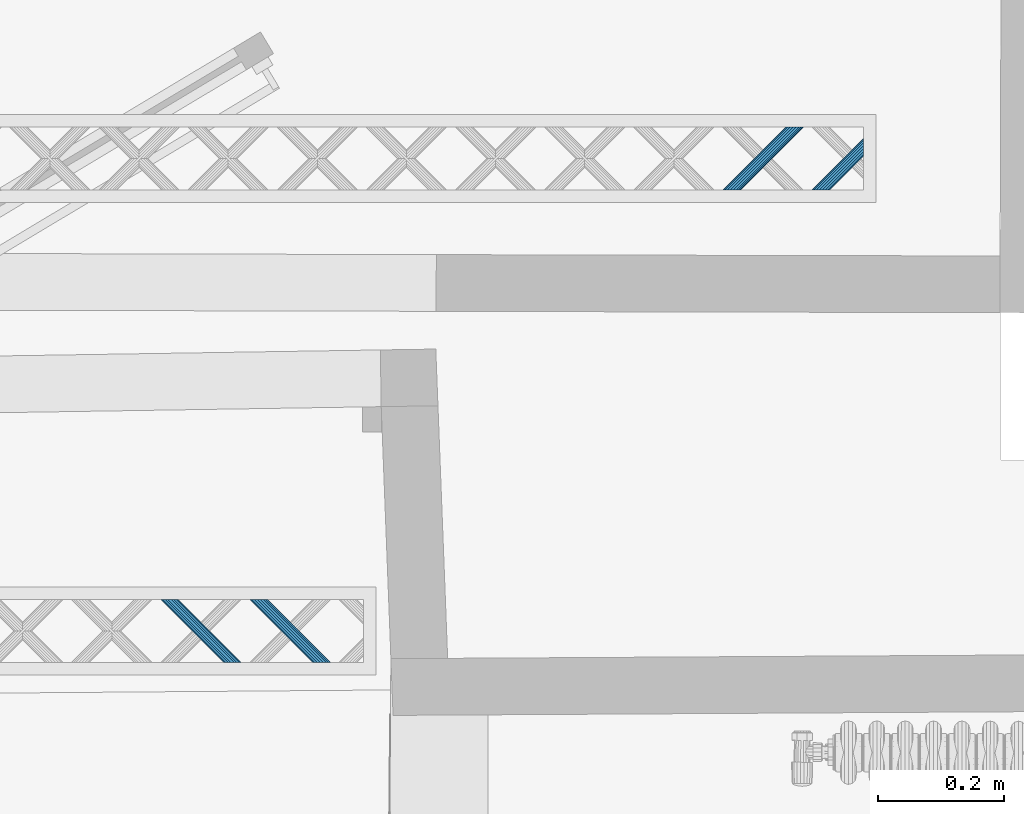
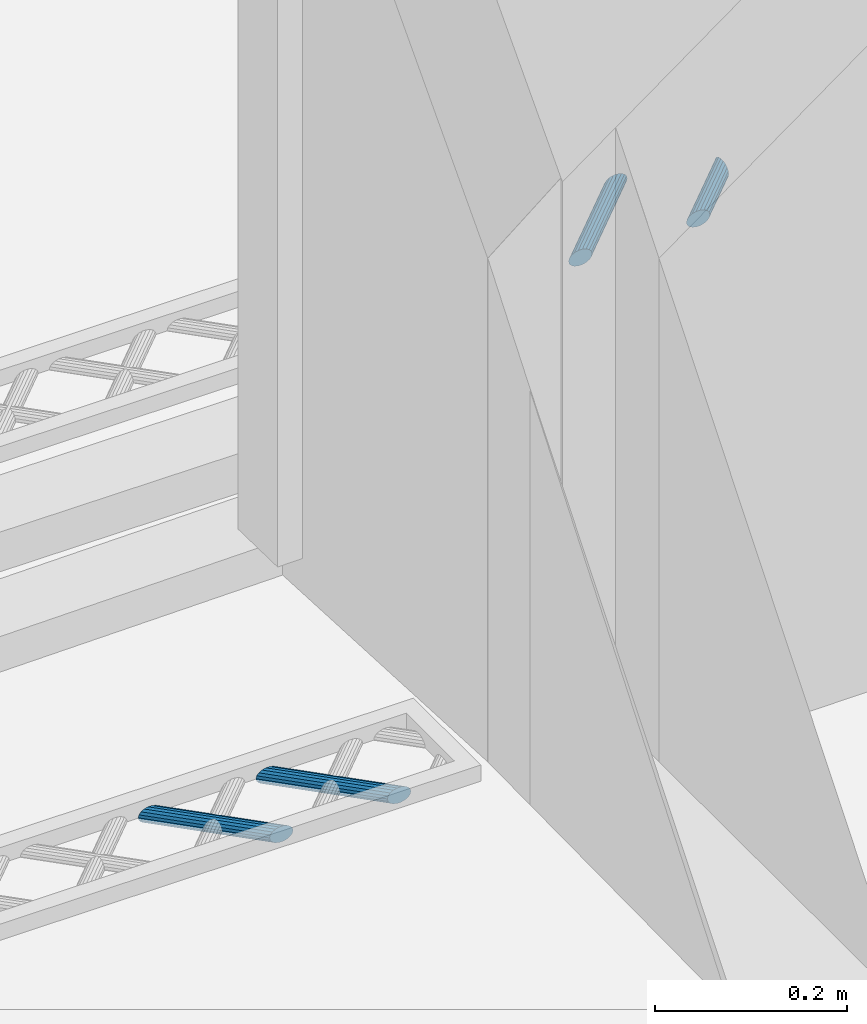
# One storey, part 71 of 133: 4 members, 2 elements without a shape of their own.
"""IFC2X3 building model written with IfcOpenShell, lengths in centimetres."""

from ifc_helpers import new_model, entity, si_unit, converted_unit, direction, frame, origin, origin_with_axes, place, context, subcontext, project, spatial, faceted_brep, material, type_object, element, aggregate, save


model = new_model("IFC2X3")

# Units and contexts
model_context = context("Model", 3, precision=0.0001, world=origin(), true_north=direction((0.225632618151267, 0.974212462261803, 0.0)))
body_context = subcontext(model_context, "Body", "Model", "MODEL_VIEW")
ifc_project = project(units=[si_unit("LENGTHUNIT", "METRE", prefix="CENTI"), si_unit("AREAUNIT", "SQUARE_METRE", prefix="CENTI"), si_unit("VOLUMEUNIT", "CUBIC_METRE", prefix="CENTI"), converted_unit("PLANEANGLEUNIT", "DEGREE", entity("IfcRatioMeasure", 0.0174532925), si_unit("PLANEANGLEUNIT", "RADIAN"), dimensions=[0, 0, 0, 0, 0, 0, 0])], contexts=[model_context])

# Site, building, storey
site_placement = place(None, origin_with_axes())
site = spatial("IfcSite", under=ifc_project, at=site_placement, Name="Default Site", CompositionType="ELEMENT")
building_placement = place(site_placement, origin_with_axes())
building = spatial("IfcBuilding", under=site, at=building_placement, Name="Default Building", CompositionType="ELEMENT")
storey_placement = place(building_placement, frame((0.0, 0.0, -291.400371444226), z_axis=(0.0, 0.0, 1.0), x_axis=(1.0, 0.0, 0.0)))
storey = spatial("IfcBuildingStorey", under=building, at=storey_placement, Name="Rez-de-Jardin", CompositionType="ELEMENT", Elevation=-291.400371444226)

# Assembly, members
building_element_proxy_type = type_object("IfcBuildingElementProxyType", Name="Type Object", PredefinedType="NOTDEFINED")
assembly_1_placement = place(storey_placement, frame((-322.682568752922, 627.125798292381, 0.0), z_axis=(0.0, 1.0, -2.38697950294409e-15), x_axis=(1.0, 0.0, 0.0)))
assembly_1 = element("IfcElementAssembly", 1, at=assembly_1_placement, inside=storey, type_object=building_element_proxy_type, Name="Panneau 92029", ObjectType="Precast panel", PredefinedType="USERDEFINED")
ifc_material = material(Name="Aluminium satiné")
member_1_placement = place(assembly_1_placement, frame((236.394953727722, 0.342020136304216, 11.9999997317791), z_axis=(1.16939479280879e-15, -1.43209739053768e-15, 1.0), x_axis=(0.632485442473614, -0.774572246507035, -1.84888807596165e-15)))
member_1 = element("IfcMember", 2, at=member_1_placement, material=ifc_material, Name="4294966815", context=body_context, shape_type="Brep", body=[
    faceted_brep([(-2.22044604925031e-14, 0.0, -8.04911692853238e-14), (-0.388301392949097, -2.22044604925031e-14, -8.12090951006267e-14), (-0.799171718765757, -0.150218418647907, -8.19687483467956e-14), (-1.18308868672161, -0.432579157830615, -8.26785678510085e-14), (-1.49374410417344, -0.813022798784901, -8.32529349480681e-14), (-1.69365001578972, -1.24563977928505, -8.36225386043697e-14), (-1.75870783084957, -1.67826596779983, -8.3742823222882e-14), (-1.68106185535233, -2.05870960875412, -8.35992645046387e-14), (-1.47008237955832, -2.34108968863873, -8.32091870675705e-14), (-1.15122324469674, -2.49135512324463, -8.26196522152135e-14), (-0.762936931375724, -2.49137359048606, -8.19017542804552e-14), (-0.35205152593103, -2.34113670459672, -8.11420731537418e-14), (0.0318654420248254, -2.05877596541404, -8.04322536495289e-14), (0.342520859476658, -1.67833232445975, -7.98578865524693e-14), (0.54242677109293, -1.24571534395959, -7.94882828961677e-14), (0.607469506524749, -0.813107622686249, -7.93680261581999e-14), (0.529838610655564, -0.432645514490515, -7.95115569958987e-14), (0.318859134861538, -0.150265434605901, -7.99016344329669e-14), (-6.00600433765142, -7.89599898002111, -9.99999977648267), (-5.79502486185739, -8.17837905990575, -9.99999977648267), (-5.71737888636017, -8.55882270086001, -9.99999977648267), (-5.78243670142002, -8.99144888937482, -9.99999977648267), (-5.9823426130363, -9.42406586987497, -9.99999977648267), (-6.29298295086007, -9.8044910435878, -9.99999977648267), (-6.67689991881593, -10.0868517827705, -9.99999977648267), (-7.08778532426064, -10.2370886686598, -9.99999977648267), (-7.47607163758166, -10.2370702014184, -9.99999977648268), (-7.79493077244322, -10.0868047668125, -9.99999977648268), (-8.00591024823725, -9.80442468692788, -9.99999977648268), (-8.08355622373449, -9.42398104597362, -9.99999977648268), (-8.01849840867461, -8.99135485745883, -9.99999977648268), (-7.81859249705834, -8.55873787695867, -9.99999977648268), (-7.50795215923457, -8.17831270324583, -9.99999977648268), (-7.12403519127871, -7.89595196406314, -9.99999977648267), (-6.71314978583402, -7.74571507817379, -9.99999977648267), (-6.32486347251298, -7.74573354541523, -9.99999977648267), (0.318859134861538, -0.150265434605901, -8.04911692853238e-14), (0.529836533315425, -0.432647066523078, 2.51604866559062e-06), (-5.79502112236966, -8.17837626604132, -10.0000043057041), (-6.00599852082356, -7.89599463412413, -10.0000068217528), (0.529838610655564, -0.432645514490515, -8.04911692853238e-14), (0.607478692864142, -0.813105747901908, -7.26238193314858e-06), (-5.71737411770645, -8.55882172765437, -10.0000035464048), (-5.79501797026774, -8.17837765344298, -10.0000052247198), (0.607469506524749, -0.813107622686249, -7.91033905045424e-14), (0.542419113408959, -1.24571419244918, 3.95144555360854e-06), (-5.78243854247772, -8.99144861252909, -9.9999988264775), (-5.71738261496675, -8.55882214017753, -9.99999785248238), (0.54242677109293, -1.24571534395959, -7.91033905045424e-14), (0.34252073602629, -1.67833226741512, 3.38952886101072e-08), (-5.98233964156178, -9.42406724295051, -10.0000005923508), (-5.78243360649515, -8.99145031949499, -10.0000006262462), (0.342520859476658, -1.67833232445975, -8.04911692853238e-14), (0.0318654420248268, -2.05877596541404, -8.04911692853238e-14), (-5.9823426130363, -9.42406586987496, -9.99999977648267), (0.0318654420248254, -2.05877596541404, -8.04911692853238e-14), (-0.352051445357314, -2.34113681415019, 3.389528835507e-08), (-6.67689854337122, -10.086853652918, -9.99999919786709), (-6.29298165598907, -9.80449280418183, -9.99999923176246), (-0.35205152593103, -2.34113670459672, -8.18789480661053e-14), (-0.762937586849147, -2.49137179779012, -9.73995204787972e-07), (-7.08778468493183, -10.2370904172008, -9.99999882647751), (-6.6768986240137, -10.0868553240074, -9.99999785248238), (-0.762936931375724, -2.49137359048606, -8.18789480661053e-14), (-1.15122324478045, -2.49135728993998, 1.67831493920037e-06), (-7.47607163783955, -10.2370768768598, -9.99999460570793), (-7.08778532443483, -10.2370931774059, -9.99999628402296), (-1.15122324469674, -2.49135512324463, -8.32667268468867e-14), (-1.47008348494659, -2.34109203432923, 2.51604866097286e-06), (-7.79493386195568, -10.0868113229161, -9.99999274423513), (-7.47607362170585, -10.2370744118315, -9.99999526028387), (-1.47008237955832, -2.34108968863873, -8.32667268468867e-14), (-1.6810597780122, -2.05870805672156, -2.51604882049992e-06), (-8.00591189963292, -9.80442592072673, -9.99999777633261), (-7.79493450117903, -10.0868075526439, -9.99999526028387), (-1.68106185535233, -2.05870960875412, -8.32667268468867e-14), (-1.75870570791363, -1.6782655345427, -1.6783151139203e-06), (-8.08355851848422, -9.42398151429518, -9.99999796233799), (-8.00591466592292, -9.80442558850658, -9.99999628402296), (-1.75870783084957, -1.67826596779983, -8.46545056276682e-14), (-1.6936519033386, -1.24563949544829, 9.73995034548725e-07), (-8.0185040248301, -8.99135401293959, -9.99999687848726), (-8.08355995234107, -9.42398048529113, -9.99999785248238), (-1.69365001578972, -1.24563977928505, -8.46545056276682e-14), (-1.49374398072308, -0.813022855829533, -3.38954501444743e-08), (-7.8185943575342, -8.55873701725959, -9.99999926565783), (-8.01850039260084, -8.99135394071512, -9.99999923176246), (-1.49374410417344, -0.813022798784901, -8.32667268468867e-14), (-1.18308868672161, -0.432579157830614, -8.32667268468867e-14), (-7.50795215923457, -8.17831270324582, -9.99999977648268), (-7.81859249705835, -8.55873787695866, -9.99999977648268), (-1.18308868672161, -0.432579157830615, -8.32667268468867e-14), (-0.799171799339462, -0.150218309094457, -3.38954478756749e-08), (-7.12403729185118, -7.89594910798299, -10.0000006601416), (-7.50795417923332, -8.17830995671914, -10.0000006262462), (-0.799171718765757, -0.150218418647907, -8.18789480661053e-14), (-0.388304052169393, 7.27287063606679e-06, -3.95144572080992e-06), (-6.71315115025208, -7.74571134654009, -10.000001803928), (-7.1240372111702, -7.89594643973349, -10.0000027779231), (-0.388301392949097, -2.22044604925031e-14, -8.18789480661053e-14), (-3.62230119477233e-10, -9.37569452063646e-06, 7.2623817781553e-06), (-6.32486347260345, -7.74573588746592, -9.99999796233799), (-6.7131497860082, -7.74571958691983, -9.99999628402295), (0.318860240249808, -0.150263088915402, -2.51604882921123e-06), (-6.00600013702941, -7.89599006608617, -10.0000093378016), (-6.32486037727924, -7.74572697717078, -10.0000068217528)], [[[0, 1, 2, 3, 4, 5, 6, 7, 8, 9, 10, 11, 12, 13, 14, 15, 16, 17]], [[18, 19, 20, 21, 22, 23, 24, 25, 26, 27, 28, 29, 30, 31, 32, 33, 34, 35]], [[36, 37, 38, 39]], [[40, 41, 42, 43]], [[44, 45, 46, 47]], [[48, 49, 50, 51]], [[52, 53, 23, 54]], [[55, 56, 57, 58]], [[59, 60, 61, 62]], [[63, 64, 65, 66]], [[67, 68, 69, 70]], [[71, 72, 73, 74]], [[75, 76, 77, 78]], [[79, 80, 81, 82]], [[83, 84, 85, 86]], [[87, 88, 89, 90]], [[91, 92, 93, 94]], [[95, 96, 97, 98]], [[99, 100, 101, 102]], [[0, 103, 104, 105]]]),
])
member_2_placement = place(assembly_1_placement, frame((246.000003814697, 0.342020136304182, 7.46292099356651), z_axis=(0.999999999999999, 0.0, 0.0), x_axis=(0.0, -0.774596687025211, -0.632455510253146)))
member_2 = element("IfcMember", 3, at=member_2_placement, material=ifc_material, Name="4294966814", context=body_context, shape_type="Brep", body=[
    faceted_brep([(1.13103970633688e-13, 1.04777297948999e-13, 0.0), (-0.388289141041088, 1.0547118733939e-13, 0.0), (-0.799165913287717, -0.150249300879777, 0.0), (-1.1830724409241, -0.432625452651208, 0.0), (-1.493703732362, -0.813069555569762, 0.0), (-1.69359292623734, -1.24569426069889, 0.0), (-1.75863119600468, -1.67831950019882, 0.0), (-1.68097334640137, -2.05876360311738, 0.0), (-1.46998625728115, -2.34113956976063, 0.0), (-1.15111801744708, -2.49138864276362, 0.0), (-0.762828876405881, -2.49138864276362, 0.0), (-0.351952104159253, -2.34113934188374, 0.0), (0.0319539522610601, -2.05876376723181, 0.0), (0.342585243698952, -1.67831966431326, 0.0), (0.542474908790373, -1.24569438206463, 0.0), (0.607513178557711, -0.813069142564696, 0.0), (0.529855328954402, -0.432625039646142, 0.0), (0.318868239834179, -0.150249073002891, 0.0), (3.71998217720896, 4.01524801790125, -5.37762641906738), (3.9849098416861, 3.79893549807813, -5.46293258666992), (4.21788333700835, 3.60871344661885, -5.70850372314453), (4.390802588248, 3.46752547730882, -6.08475208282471), (4.48281101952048, 3.39240091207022, -6.54628276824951), (4.48281101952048, 3.39240091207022, -7.03742504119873), (4.390802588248, 3.46752547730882, -7.49895572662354), (4.21788333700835, 3.60871344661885, -7.87520408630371), (3.9849098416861, 3.79893549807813, -8.12077522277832), (3.71998217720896, 4.01524801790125, -8.20605754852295), (3.45505451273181, 4.23156053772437, -8.12077522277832), (3.22208101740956, 4.42178258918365, -7.87520408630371), (3.04916176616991, 4.56297055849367, -7.49895572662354), (2.95715333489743, 4.63809512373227, -7.03742504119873), (2.95715333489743, 4.63809512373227, -6.54628276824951), (3.04916176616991, 4.56297055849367, -6.08475208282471), (3.22208101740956, 4.42178258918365, -5.70850372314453), (3.45505451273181, 4.23156053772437, -5.46293258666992), (0.529855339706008, -0.432625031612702, 1.30225882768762e-08), (3.98491447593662, 3.79893896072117, -5.46292697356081), (3.71997934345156, 4.01524590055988, -5.37762985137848), (0.60751317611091, -0.813069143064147, -1.93436607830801e-09), (4.21788669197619, 3.60871413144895, -5.70850107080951), (3.98491531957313, 3.7989366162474, -5.46292825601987), (0.542475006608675, -1.24569439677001, 5.0474981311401e-08), (4.39080730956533, 3.46752476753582, -6.08474964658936), (4.21788617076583, 3.60871302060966, -5.70850226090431), (0.342585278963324, -1.67831968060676, 9.68225184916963e-09), (4.48281335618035, 3.39239983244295, -6.54628212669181), (4.39080504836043, 3.46752434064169, -6.08475140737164), (-0.351952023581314, -2.34113945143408, -3.38953656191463e-08), (4.39080240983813, 3.46752571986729, -7.49895565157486), (4.48281076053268, 3.39240126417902, -7.03742493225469), (-0.762828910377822, -2.49138854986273, 5.04749811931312e-08), (4.21788242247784, 3.60871594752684, -7.87520272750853), (4.39080232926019, 3.46752618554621, -7.49895534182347), (-1.15111801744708, -2.49138864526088, -1.93436565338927e-09), (3.98490984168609, 3.79893639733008, -8.12077452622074), (4.21788333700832, 3.60871651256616, -7.8752017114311), (-1.46998625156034, -2.34113955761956, 1.30225883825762e-08), (3.71998146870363, 4.015246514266, -8.20605916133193), (3.9849102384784, 3.79893634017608, -8.12077431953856), (-1.68097335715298, -2.05876361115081, -1.30225881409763e-08), (3.45505524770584, 4.23156108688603, -8.12077433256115), (3.71998083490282, 4.01524701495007, -8.20605917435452), (-1.75863119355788, -1.67831949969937, 1.93436565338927e-09), (3.22208402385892, 4.4217832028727, -7.87520170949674), (3.45505539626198, 4.23156071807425, -8.12077452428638), (-1.69359302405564, -1.24569424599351, -5.04749810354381e-08), (3.04916241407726, 4.56297046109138, -7.49895539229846), (3.22208355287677, 4.42178220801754, -7.87520277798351), (-1.49370360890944, -0.813069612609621, 3.38953655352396e-08), (2.95715385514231, 4.63809488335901, -7.03742489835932), (3.04916216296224, 4.56297037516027, -7.49895561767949), (-0.799165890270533, -0.15024933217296, -9.68225147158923e-09), (3.0491601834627, 4.56297271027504, -6.08475141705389), (2.95715183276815, 4.6380971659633, -6.54628213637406), (-0.388289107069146, -9.29007864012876e-08, -5.04749813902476e-08), (3.2220800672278, 4.42178518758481, -5.70850231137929), (3.04916016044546, 4.56297494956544, -6.08474969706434), (1.13078273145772e-13, 2.49736041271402e-09, 1.93436592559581e-09), (3.45505451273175, 4.23156613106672, -5.46292825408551), (3.22208101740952, 4.42178601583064, -5.70850106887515), (0.318868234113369, -0.150249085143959, -1.30225883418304e-08), (3.71998066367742, 4.01524480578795, -5.37762986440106), (3.45505697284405, 4.23156575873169, -5.4629269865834)], [[[0, 1, 2, 3, 4, 5, 6, 7, 8, 9, 10, 11, 12, 13, 14, 15, 16, 17]], [[18, 19, 20, 21, 22, 23, 24, 25, 26, 27, 28, 29, 30, 31, 32, 33, 34, 35]], [[17, 36, 37, 38]], [[16, 39, 40, 41]], [[15, 42, 43, 44]], [[14, 45, 46, 47]], [[13, 12, 23, 22]], [[12, 48, 49, 50]], [[11, 51, 52, 53]], [[10, 54, 55, 56]], [[9, 57, 58, 59]], [[8, 60, 61, 62]], [[7, 63, 64, 65]], [[6, 66, 67, 68]], [[5, 69, 70, 71]], [[4, 3, 32, 31]], [[3, 72, 73, 74]], [[2, 75, 76, 77]], [[1, 78, 79, 80]], [[0, 81, 82, 83]]]),
])
aggregate(assembly_1, [member_1, member_2])

assembly_2_placement = place(storey_placement, frame((-251.995147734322, 552.177521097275, 0.0), z_axis=(0.0, 1.0, -2.38697950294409e-15), x_axis=(1.0, 0.0, 0.0)))
assembly_2 = element("IfcElementAssembly", 4, at=assembly_2_placement, inside=storey, type_object=building_element_proxy_type, Name="Panneau 92047", ObjectType="Precast panel", PredefinedType="USERDEFINED")
member_3_placement = place(assembly_2_placement, frame((88.0264103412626, 0.342020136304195, 1.99999995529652), z_axis=(1.16937776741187e-15, 1.43218081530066e-15, -1.0), x_axis=(-0.632457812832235, -0.774594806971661, -1.84894192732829e-15)))
member_3 = element("IfcMember", 5, at=member_3_placement, material=ifc_material, Name="4294966745", context=body_context, shape_type="Brep", body=[
    faceted_brep([(1.11022302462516e-14, 0.0, 1.35308431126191e-14), (-0.388290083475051, 1.11022302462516e-14, 1.42487689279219e-14), (-0.799166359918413, -0.150246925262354, 1.50084553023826e-14), (-1.18307325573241, -0.432621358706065, 1.57182768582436e-14), (-1.49370756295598, -0.813066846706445, 1.62926216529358e-14), (-1.69359804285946, -1.24569095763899, 1.66622075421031e-14), (-1.75863665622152, -1.6783148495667, 1.67824601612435e-14), (-1.68098087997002, -2.05876033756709, 1.66388791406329e-14), (-1.46999510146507, -2.34113750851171, 1.62487786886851e-14), (-1.15112683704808, -2.49138695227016, 1.56592097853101e-14), (-0.762836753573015, -2.49138695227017, 1.49412839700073e-14), (-0.351960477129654, -2.34114002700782, 1.41815975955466e-14), (0.0319464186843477, -2.05876559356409, 1.34717760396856e-14), (0.342580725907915, -1.67832010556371, 1.28974312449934e-14), (0.54247120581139, -1.24569599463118, 1.25278453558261e-14), (0.607509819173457, -0.81307210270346, 1.24075927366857e-14), (0.529854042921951, -0.432626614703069, 1.25511737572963e-14), (0.318864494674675, -0.15025406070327, 1.29412811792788e-14), (6.64344413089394, 7.59569585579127, -9.99999977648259), (6.8544299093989, 7.31331868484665, -9.99999977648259), (6.9320856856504, 6.93287319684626, -9.99999977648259), (6.86704707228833, 6.50024930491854, -9.99999977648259), (6.66715659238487, 6.067625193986, -9.99999977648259), (6.35652605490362, 5.68718432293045, -9.99999977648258), (5.97261915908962, 5.40480988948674, -9.99999977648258), (5.56173911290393, 5.25455834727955, -9.99999977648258), (5.17345279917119, 5.25456296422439, -9.99999977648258), (4.85458453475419, 5.40481240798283, -9.99999977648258), (4.64359875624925, 5.68718957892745, -9.99999977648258), (4.56593921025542, 6.06763044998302, -9.99999977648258), (4.63098159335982, 6.50025895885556, -9.99999977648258), (4.83087207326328, 6.9328830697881, -9.99999977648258), (5.14150261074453, 7.31332394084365, -9.99999977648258), (5.52540950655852, 7.59569837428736, -9.99999977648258), (5.93628578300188, 7.74594529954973, -9.99999977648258), (6.32457586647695, 7.74594529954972, -9.99999977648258), (0.318864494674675, -0.15025406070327, 1.28369537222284e-14), (0.529851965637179, -0.432628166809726, -2.51604872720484e-06), (6.85442917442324, 7.31331813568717, -10.0000006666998), (6.64344308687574, 7.59569507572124, -10.0000010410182), (0.529854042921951, -0.432626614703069, 1.28369537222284e-14), (0.607510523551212, -0.813071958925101, 5.56859197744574e-07), (6.93208798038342, 6.93287366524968, -9.9999979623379), (6.85443149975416, 7.31331900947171, -9.99999851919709), (0.607509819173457, -0.81307210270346, 1.2490009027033e-14), (0.542470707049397, -1.24569591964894, -2.57365051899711e-07), (6.86704791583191, 6.50024917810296, -9.99999934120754), (6.93208702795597, 6.93287299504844, -9.99999908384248), (0.54247120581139, -1.24569599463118, 1.2490009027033e-14), (0.342580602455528, -1.67832004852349, -3.38953519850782e-08), (6.66715718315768, 6.06762492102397, -9.99999961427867), (6.86704778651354, 6.50024897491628, -9.99999958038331), (0.342580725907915, -1.67832010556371, 1.28369537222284e-14), (0.0319464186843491, -2.05876559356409, 1.35308431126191e-14), (6.35652605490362, 5.68718432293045, -9.99999977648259), (6.66715659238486, 6.06762519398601, -9.99999977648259), (0.0319464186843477, -2.05876559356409, 1.35308431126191e-14), (-0.351960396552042, -2.34114013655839, -3.38953512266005e-08), (5.9726196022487, 5.40480928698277, -9.99999996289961), (6.35652641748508, 5.68718382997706, -9.99999992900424), (-0.351960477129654, -2.34114002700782, 1.42247325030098e-14), (-0.762836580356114, -2.4913874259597, -2.57365049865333e-07), (5.56173881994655, 5.25455914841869, -9.99999934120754), (5.97261952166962, 5.40480889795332, -10.0000003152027), (-0.762836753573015, -2.49138695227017, 1.49186218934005e-14), (-1.15112683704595, -2.49138623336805, 5.56859199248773e-07), (5.17345279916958, 5.2545624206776, -10.0000001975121), (5.56173911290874, 5.25455997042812, -9.99999851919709), (-1.15112683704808, -2.49138695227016, 1.59594559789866e-14), (-1.4699949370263, -2.34113715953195, 3.74318512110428e-07), (4.85458414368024, 5.40481157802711, -10.0000006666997), (5.17345224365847, 5.2545617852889, -10.0000010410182), (-1.46999510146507, -2.34113750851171, 1.6306400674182e-14), (-1.68098118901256, -2.05876056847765, -3.74318478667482e-07), (4.6435974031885, 5.68718856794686, -10.0000014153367), (4.85458349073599, 5.4048116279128, -10.0000010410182), (-1.68098087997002, -2.05876033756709, 1.66533453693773e-14), (-1.75863736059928, -1.67831499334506, -5.56859168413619e-07), (4.56594009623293, 6.06763063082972, -9.99999907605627), (4.64359751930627, 5.6871893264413, -10.0000007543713), (-1.75863665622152, -1.6783148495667, 1.70002900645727e-14), (-1.69359754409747, -1.24569103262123, 2.57365080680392e-07), (4.63098104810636, 6.50025904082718, -10.0000000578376), (4.56594055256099, 6.0676302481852, -9.99999908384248), (-1.69359804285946, -1.24569095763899, 1.70002900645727e-14), (-1.49370743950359, -0.813066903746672, 3.38953822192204e-08), (4.83087164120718, 6.93288326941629, -9.99999989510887), (4.63098103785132, 6.50025921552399, -9.99999992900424), (-1.49370756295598, -0.813066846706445, 1.6306400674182e-14), (-1.18307325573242, -0.432621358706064, 1.56125112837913e-14), (-1.18307325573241, -0.432621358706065, 1.56125112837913e-14), (-0.79916644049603, -0.150246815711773, 3.38953828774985e-08), (5.52540895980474, 7.59569911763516, -9.99999954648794), (5.14150214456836, 7.31332457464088, -9.9999995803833), (-0.799166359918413, -0.150246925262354, 1.52655665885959e-14), (-0.38829025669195, 4.73689529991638e-07, 2.57365075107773e-07), (5.93628514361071, 7.74594704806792, -9.99999882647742), (5.52540904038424, 7.59569964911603, -9.99999908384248), (-0.388290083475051, 1.11022302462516e-14, 1.45716771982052e-14), (-2.11852309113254e-12, -7.18902103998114e-07, -5.5685916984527e-07), (6.32457586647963, 7.74594620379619, -9.99999907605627), (5.93628578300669, 7.7459469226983, -9.99999851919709), (0.318865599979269, -0.150251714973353, 2.51604875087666e-06), (6.64344468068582, 7.59569702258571, -9.99999852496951), (6.32457658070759, 7.74594681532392, -9.99999815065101)], [[[0, 1, 2, 3, 4, 5, 6, 7, 8, 9, 10, 11, 12, 13, 14, 15, 16, 17]], [[18, 19, 20, 21, 22, 23, 24, 25, 26, 27, 28, 29, 30, 31, 32, 33, 34, 35]], [[36, 37, 38, 39]], [[40, 41, 42, 43]], [[44, 45, 46, 47]], [[48, 49, 50, 51]], [[52, 53, 54, 55]], [[56, 57, 58, 59]], [[60, 61, 62, 63]], [[64, 65, 66, 67]], [[68, 69, 70, 71]], [[72, 73, 74, 75]], [[76, 77, 78, 79]], [[80, 81, 82, 83]], [[84, 85, 86, 87]], [[88, 89, 32, 31]], [[90, 91, 92, 93]], [[94, 95, 96, 97]], [[98, 99, 100, 101]], [[0, 102, 103, 104]]]),
])
member_4_placement = place(assembly_2_placement, frame((73.8842785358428, 0.342020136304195, 1.99999995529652), z_axis=(1.16937776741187e-15, 1.43218081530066e-15, -1.0), x_axis=(-0.632457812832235, -0.774594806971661, -1.84894192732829e-15)))
member_4 = element("IfcMember", 6, at=member_4_placement, material=ifc_material, Name="4294966744", context=body_context, shape_type="Brep", body=[
    faceted_brep([(-1.11022302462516e-14, 1.11022302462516e-14, -3.12250225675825e-15), (-0.388290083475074, 2.22044604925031e-14, -2.40457644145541e-15), (-0.799166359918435, -0.150246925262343, -1.64489006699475e-15), (-1.18307325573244, -0.432621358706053, -9.35068511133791e-16), (-1.49370379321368, -0.813062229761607, -3.60730686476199e-16), (-1.69359427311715, -1.24568634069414, 8.85520269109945e-18), (-1.75863665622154, -1.6783148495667, 1.29114791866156e-16), (-1.68097711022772, -2.05875572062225, -1.44731987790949e-17), (-1.46999133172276, -2.34113289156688, -4.0457365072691e-16), (-1.15112306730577, -2.49138233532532, -9.94142554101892e-16), (-0.762836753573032, -2.49138695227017, -1.7120613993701e-15), (-0.351956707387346, -2.34113541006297, -2.4717547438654e-15), (0.0319501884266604, -2.05876097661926, -3.18157629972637e-15), (0.342580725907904, -1.6783201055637, -3.75591412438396e-15), (0.542471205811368, -1.24569599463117, -4.12550001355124e-15), (0.607509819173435, -0.813072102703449, -4.24575263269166e-15), (0.52985404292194, -0.432626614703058, -4.10217161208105e-15), (0.318868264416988, -0.150249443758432, -3.71207116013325e-15), (6.64344790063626, 7.59570047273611, -9.9999997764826), (6.85443367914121, 7.31332330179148, -9.9999997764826), (6.93208945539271, 6.93287781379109, -9.9999997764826), (6.86705084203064, 6.50025392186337, -9.9999997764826), (6.66716036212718, 6.06762981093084, -9.9999997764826), (6.3565260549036, 5.68718432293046, -9.9999997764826), (5.97261915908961, 5.40480988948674, -9.9999997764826), (5.56174288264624, 5.25456296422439, -9.9999997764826), (5.17345279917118, 5.25456296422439, -9.9999997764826), (4.85458453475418, 5.40481240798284, -9.9999997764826), (4.64359875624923, 5.68718957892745, -9.9999997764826), (4.56594297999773, 6.06763506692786, -9.9999997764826), (4.6309815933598, 6.50025895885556, -9.9999997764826), (4.83087207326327, 6.93288306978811, -9.9999997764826), (5.14150638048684, 7.31332855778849, -9.9999997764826), (5.52541327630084, 7.59570299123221, -9.9999997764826), (5.9362895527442, 7.74594991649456, -9.9999997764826), (6.32457963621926, 7.74594991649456, -9.9999997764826), (0.318868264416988, -0.150249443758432, -3.46944695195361e-15), (0.529854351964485, -0.432626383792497, 3.74318489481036e-07), (6.85443294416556, 7.31332275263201, -10.0000006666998), (6.64344685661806, 7.59569969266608, -10.0000010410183), (0.52985404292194, -0.432626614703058, -3.81639164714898e-15), (0.607510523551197, -0.813071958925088, 5.5685918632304e-07), (6.93208892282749, 6.9328777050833, -10.0000001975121), (6.85443244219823, 7.31332304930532, -10.0000007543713), (0.607509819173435, -0.813072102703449, -4.16333634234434e-15), (0.542470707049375, -1.24569591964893, -2.57365068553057e-07), (6.8670492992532, 6.50025415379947, -10.0000005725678), (6.93208841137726, 6.93287797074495, -10.0000003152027), (0.542471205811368, -1.24569599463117, -4.16333634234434e-15), (0.342580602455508, -1.67832004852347, -3.3895370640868e-08), (6.66715968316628, 6.06763012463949, -9.99999996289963), (6.86705028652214, 6.5002541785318, -9.99999992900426), (0.342580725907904, -1.6783201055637, -3.46944695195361e-15), (0.0319501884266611, -2.05876097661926, -3.12250225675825e-15), (6.66716036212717, 6.06762981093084, -9.9999997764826), (0.0319501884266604, -2.05876097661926, -3.12250225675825e-15), (-0.351956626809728, -2.34113551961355, -3.38953707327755e-08), (5.97261877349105, 5.40481041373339, -9.99999961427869), (6.35652558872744, 5.68718495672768, -9.99999958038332), (-0.351956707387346, -2.34113541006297, -2.42861286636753e-15), (-0.762837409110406, -2.4913851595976, 9.73995130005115e-07), (5.56174258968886, 5.25456376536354, -9.99999934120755), (5.97261869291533, 5.40481116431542, -9.99999908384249), (-0.762836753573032, -2.49138695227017, -1.73472347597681e-15), (-1.15112306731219, -2.49138450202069, -1.67831503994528e-06), (5.17345279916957, 5.2545624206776, -10.0000001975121), (5.5617428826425, 5.25456170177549, -10.0000007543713), (-1.15112306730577, -2.49138233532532, -6.93889390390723e-16), (-1.469991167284, -2.34113254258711, 3.74318495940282e-07), (4.85458541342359, 5.4048142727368, -9.99999777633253), (5.17345351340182, 5.25456447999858, -9.99999815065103), (-1.46999133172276, -2.34113289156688, -3.46944695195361e-16), (-1.68097741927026, -2.05875595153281, -3.74318491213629e-07), (4.6435997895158, 5.68719035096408, -9.99999852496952), (4.8545858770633, 5.40481341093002, -9.99999815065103), (-1.68097711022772, -2.05875572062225, 0.0), (-1.75863453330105, -1.67831441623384, 1.67831502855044e-06), (4.56594386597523, 6.06763524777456, -9.99999907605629), (4.64360034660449, 5.68718990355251, -9.9999985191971), (-1.75863665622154, -1.6783148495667, 3.46944695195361e-16), (-1.69359616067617, -1.24568605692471, -9.73995123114e-07), (4.63098104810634, 6.50025904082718, -10.0000000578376), (4.56594193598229, 6.06763522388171, -10.0000003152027), (-1.69359427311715, -1.24568634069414, 3.46944695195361e-16), (-1.49370366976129, -0.813062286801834, 3.38953656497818e-08), (4.83087291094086, 6.93288268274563, -9.99999954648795), (4.630982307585, 6.50025862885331, -9.99999958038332), (-1.49370379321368, -0.813062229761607, -3.46944695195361e-16), (-1.18307325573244, -0.432621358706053, -6.93889390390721e-16), (5.14150638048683, 7.31332855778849, -9.9999997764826), (4.83087207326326, 6.93288306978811, -9.9999997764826), (-1.18307325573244, -0.432621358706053, -6.93889390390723e-16), (-0.799166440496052, -0.150246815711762, 3.38953662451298e-08), (5.52541355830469, 7.5957026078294, -9.99999989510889), (5.1415067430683, 7.3133280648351, -9.99999992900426), (-0.799166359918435, -0.150246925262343, -1.38777878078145e-15), (-0.388290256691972, 4.73689541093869e-07, 2.57365058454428e-07), (5.93628974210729, 7.74594939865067, -10.0000000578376), (5.52541363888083, 7.59570199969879, -10.0000003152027), (-0.388290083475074, 2.22044604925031e-14, -2.08166817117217e-15), (-2.14072755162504e-12, -7.18902092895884e-07, -5.56859186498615e-07), (6.32457963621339, 7.74594793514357, -10.0000013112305), (5.93628955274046, 7.74594865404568, -10.0000007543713), (0.31886809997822, -0.150249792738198, -3.74318500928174e-07), (6.64344718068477, 7.59569894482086, -10.0000014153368), (6.32457908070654, 7.74594873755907, -10.0000010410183)], [[[0, 1, 2, 3, 4, 5, 6, 7, 8, 9, 10, 11, 12, 13, 14, 15, 16, 17]], [[18, 19, 20, 21, 22, 23, 24, 25, 26, 27, 28, 29, 30, 31, 32, 33, 34, 35]], [[36, 37, 38, 39]], [[40, 41, 42, 43]], [[44, 45, 46, 47]], [[48, 49, 50, 51]], [[52, 53, 23, 54]], [[55, 56, 57, 58]], [[59, 60, 61, 62]], [[63, 64, 65, 66]], [[67, 68, 69, 70]], [[71, 72, 73, 74]], [[75, 76, 77, 78]], [[79, 80, 81, 82]], [[83, 84, 85, 86]], [[87, 88, 89, 90]], [[91, 92, 93, 94]], [[95, 96, 97, 98]], [[99, 100, 101, 102]], [[0, 103, 104, 105]]]),
])
aggregate(assembly_2, [member_3, member_4])

save(model, "model.ifc")
